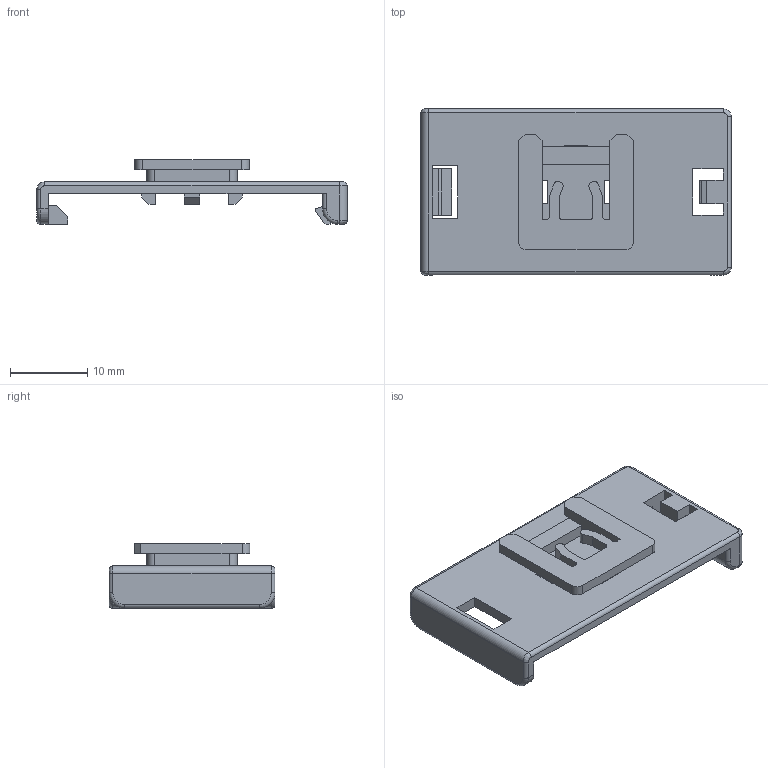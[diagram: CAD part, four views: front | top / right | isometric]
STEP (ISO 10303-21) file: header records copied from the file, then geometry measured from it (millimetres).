
FILE_DESCRIPTION(/* description */ (''),/* implementation_level */ '2;1');
FILE_NAME(/* name */ 'LS-35mm导轨卡扣.stp',/* time_stamp */ '2024-10-16T09:18:37+08:00',/* author */ (''),/* organization */ (''),/* preprocessor_version */ 'ST-DEVELOPER v16',/* originating_system */ 'SIEMENS PLM Software NX 10.0',/* authorisation */ '');
FILE_SCHEMA (('AUTOMOTIVE_DESIGN { 1 0 10303 214 3 1 1 1 }'));
Length unit declared in the file: millimetre
Products named in the file (1): chaoC3A03A0Cfb6y
Bounding box: 40.2 x 21.5 x 8.4 mm (x, y, z)
Volume: 1824.6 mm3; surface area: 2990.2 mm2
Topology: 2 solids, 2 shells, 167 faces, 478 edges, 310 vertices
Faces by surface type: plane 122, cylinder 34, bspline 7, torus 4
Entity records: 5530 total; most frequent: CARTESIAN_POINT 1057, ORIENTED_EDGE 956, DIRECTION 880, EDGE_CURVE 478, LINE 398, VECTOR 398, VERTEX_POINT 310, AXIS2_PLACEMENT_3D 241
